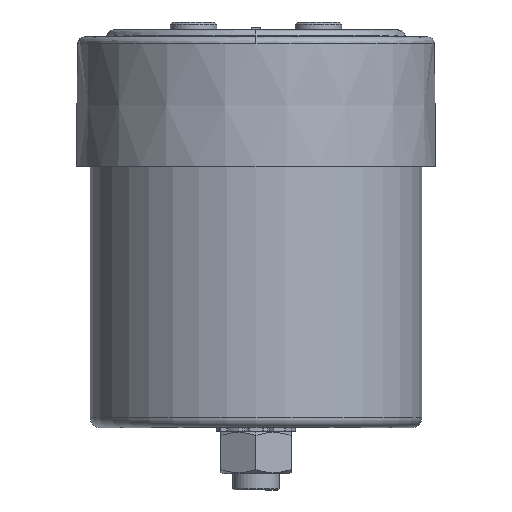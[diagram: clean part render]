
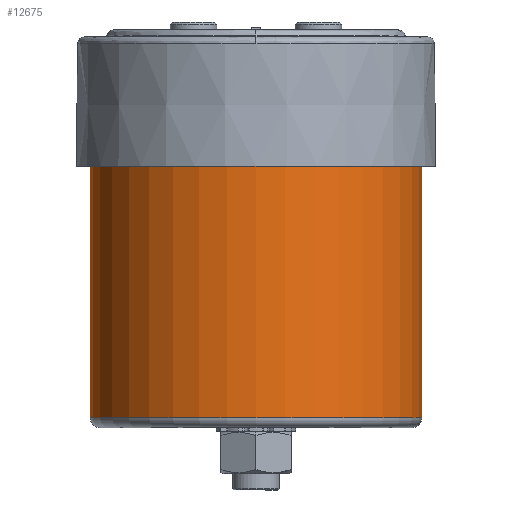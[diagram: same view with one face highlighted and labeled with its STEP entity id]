
A CAD part, left-side view. The second image highlights one B-rep face of the part: STEP entity #12675.
In plain terms, the highlighted cylindrical face has radius 42.5 mm (diameter 85 mm), a partial arc.
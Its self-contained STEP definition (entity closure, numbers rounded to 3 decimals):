
#252 = EDGE_LOOP ( 'NONE', ( #9263, #257, #14142, #4432 ) ) ;
#257 = ORIENTED_EDGE ( 'NONE', *, *, #14506, .T. ) ;
#515 = CARTESIAN_POINT ( 'NONE',  ( 0., -42.5, -95. ) ) ;
#709 = FACE_OUTER_BOUND ( 'NONE', #252, .T. ) ;
#721 = EDGE_CURVE ( 'NONE', #12501, #2479, #16038, .T. ) ;
#854 = CARTESIAN_POINT ( 'NONE',  ( 0., 42.5, -92.5 ) ) ;
#2086 = DIRECTION ( 'NONE',  ( 0., 1., 0. ) ) ;
#2479 = VERTEX_POINT ( 'NONE', #9558 ) ;
#2640 = VECTOR ( 'NONE', #15201, 1000. ) ;
#3965 = DIRECTION ( 'NONE',  ( 0., 0., 1. ) ) ;
#4074 = CARTESIAN_POINT ( 'NONE',  ( 0., 0., -92.5 ) ) ;
#4432 = ORIENTED_EDGE ( 'NONE', *, *, #9585, .F. ) ;
#4477 = AXIS2_PLACEMENT_3D ( 'NONE', #9684, #14152, #2086 ) ;
#5238 = CARTESIAN_POINT ( 'NONE',  ( 0., -42.5, 0. ) ) ;
#6174 = CARTESIAN_POINT ( 'NONE',  ( 0., 42.5, 0. ) ) ;
#6237 = VECTOR ( 'NONE', #15013, 1000. ) ;
#6469 = DIRECTION ( 'NONE',  ( 0., 0., -1. ) ) ;
#6834 = AXIS2_PLACEMENT_3D ( 'NONE', #7904, #6469, #15367 ) ;
#7234 = CARTESIAN_POINT ( 'NONE',  ( 0., 42.5, -95. ) ) ;
#7904 = CARTESIAN_POINT ( 'NONE',  ( 0., 0., -95. ) ) ;
#9167 = LINE ( 'NONE', #515, #2640 ) ;
#9263 = ORIENTED_EDGE ( 'NONE', *, *, #19098, .F. ) ;
#9558 = CARTESIAN_POINT ( 'NONE',  ( 0., -42.5, -92.5 ) ) ;
#9564 = CYLINDRICAL_SURFACE ( 'NONE', #6834, 42.5 ) ;
#9585 = EDGE_CURVE ( 'NONE', #15985, #2479, #9167, .T. ) ;
#9684 = CARTESIAN_POINT ( 'NONE',  ( 0., 0., 0. ) ) ;
#11288 = AXIS2_PLACEMENT_3D ( 'NONE', #4074, #3965, #18976 ) ;
#12493 = CIRCLE ( 'NONE', #4477, 42.5 ) ;
#12501 = VERTEX_POINT ( 'NONE', #854 ) ;
#12675 = ADVANCED_FACE ( 'NONE', ( #709 ), #9564, .T. ) ;
#14142 = ORIENTED_EDGE ( 'NONE', *, *, #721, .T. ) ;
#14152 = DIRECTION ( 'NONE',  ( 0., 0., 1. ) ) ;
#14506 = EDGE_CURVE ( 'NONE', #16220, #12501, #16211, .T. ) ;
#15013 = DIRECTION ( 'NONE',  ( 0., 0., -1. ) ) ;
#15201 = DIRECTION ( 'NONE',  ( 0., 0., -1. ) ) ;
#15367 = DIRECTION ( 'NONE',  ( 0., -1., 0. ) ) ;
#15985 = VERTEX_POINT ( 'NONE', #5238 ) ;
#16038 = CIRCLE ( 'NONE', #11288, 42.5 ) ;
#16211 = LINE ( 'NONE', #7234, #6237 ) ;
#16220 = VERTEX_POINT ( 'NONE', #6174 ) ;
#18976 = DIRECTION ( 'NONE',  ( 0., -1., 0. ) ) ;
#19098 = EDGE_CURVE ( 'NONE', #16220, #15985, #12493, .T. ) ;
